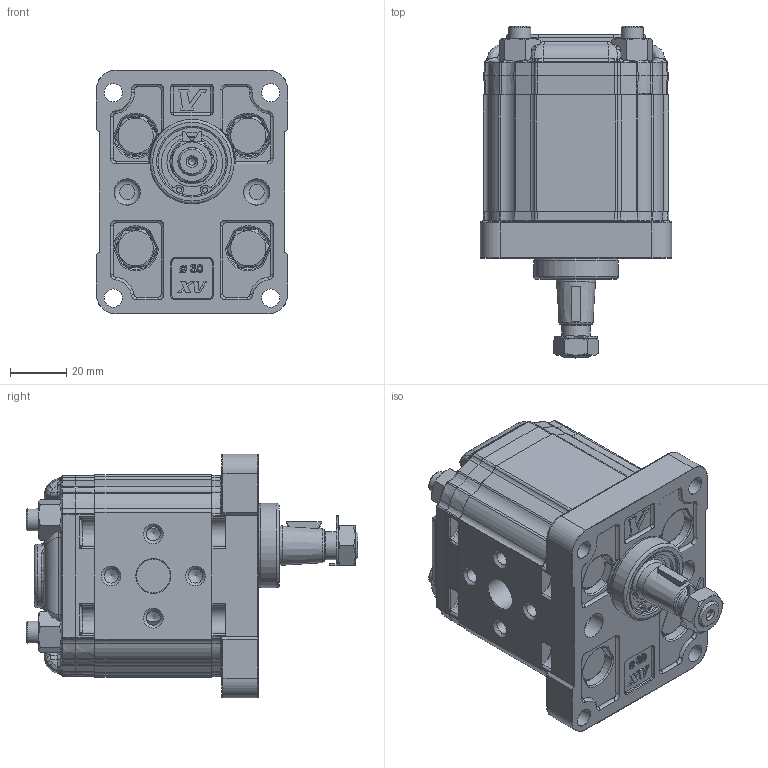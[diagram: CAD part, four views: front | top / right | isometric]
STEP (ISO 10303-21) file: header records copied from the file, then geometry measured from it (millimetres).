
FILE_DESCRIPTION(/* description */ ('Unknown'),/* implementation_level */ '2;1');
FILE_NAME(/* name */ 'X1U1611GIIA',/* time_stamp */ '2026-05-26T18:40:30+02:00',/* author */ ('Unknown'),/* organization */ ('Unknown'),/* preprocessor_version */ 'ST-DEVELOPER v16.7',/* originating_system */ 'Solid Edge',/* authorisation */ 'Unknown');
FILE_SCHEMA (('AUTOMOTIVE_DESIGN {1 0 10303 214 3 1 1}'));
Products named in the file (5): X1U1611GIIA; X1U11; 1G; X1IIH41,5; XU113-A
Assembly tree (4 placements, depth 2):
  X1U1611GIIA
    X1U11
    1G
    X1IIH41,5
    XU113-A
Bounding box: 68 x 117.99 x 86.7 mm (x, y, z)
Volume: 322590.2 mm3; surface area: 72726.5 mm2
Topology: 4 solids, 5 shells, 2412 faces, 5824 edges, 3489 vertices
Faces by surface type: cylinder 767, plane 590, bspline 514, torus 268, cone 222, sphere 51
Full cylindrical faces by diameter (mm): 1.678 x2, 2.5 x1, 3 x2, 5 x8, 6.5 x4, 8 x12, 8.5 x6, 9 x2, 9.3 x2, 10 x2, 10.25 x1, 10.5 x2, 12 x6, 13.955 x1, 14 x2, 14.923 x1, 17.115 x1, 17.833 x1, 20 x1, 22 x1, 24 x2, 24.2 x1, 25.5 x1, 30 x1
Entity records: 116656 total; most frequent: CARTESIAN_POINT 46680, ORIENTED_EDGE 11090, DIRECTION 10751, EDGE_CURVE 5545, AXIS2_PLACEMENT_3D 4371, VERTEX_POINT 3400, FACE_BOUND 2747, EDGE_LOOP 2737
